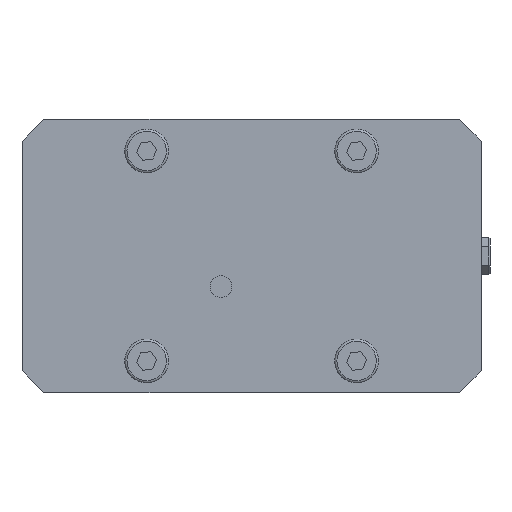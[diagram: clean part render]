
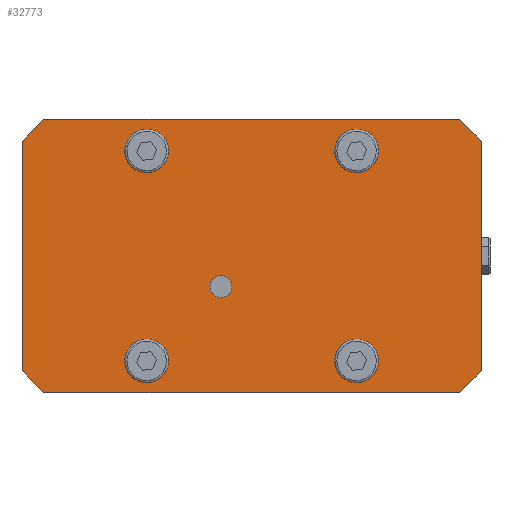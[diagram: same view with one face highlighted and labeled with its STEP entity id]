
A CAD part, front view. The second image highlights one B-rep face of the part: STEP entity #32773.
In plain terms, the highlighted planar face has unit normal (0, -1, 0).
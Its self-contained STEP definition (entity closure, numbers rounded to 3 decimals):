
#156 = CIRCLE ( 'NONE', #12321, 8. ) ;
#353 = LINE ( 'NONE', #7289, #7281 ) ;
#418 = DIRECTION ( 'NONE',  ( 0.707, 0., 0.707 ) ) ;
#1145 = DIRECTION ( 'NONE',  ( 0., 0., -1. ) ) ;
#1346 = CARTESIAN_POINT ( 'NONE',  ( -48., 0., 56. ) ) ;
#1418 = CARTESIAN_POINT ( 'NONE',  ( -105., 0., 52.5 ) ) ;
#1720 = CARTESIAN_POINT ( 'NONE',  ( 105., 0., 52.5 ) ) ;
#1759 = LINE ( 'NONE', #38322, #26171 ) ;
#1910 = EDGE_CURVE ( 'NONE', #18973, #18973, #156, .T. ) ;
#2046 = FACE_OUTER_BOUND ( 'NONE', #2738, .T. ) ;
#2391 = CARTESIAN_POINT ( 'NONE',  ( -48., 0., -48. ) ) ;
#2529 = CARTESIAN_POINT ( 'NONE',  ( 95., 0., -62.5 ) ) ;
#2738 = EDGE_LOOP ( 'NONE', ( #22060, #20806, #18169, #15106, #22006, #14324, #21966, #31632 ) ) ;
#3113 = DIRECTION ( 'NONE',  ( -1., 0., 0. ) ) ;
#4117 = DIRECTION ( 'NONE',  ( 0., 0., -1. ) ) ;
#4212 = EDGE_LOOP ( 'NONE', ( #14850 ) ) ;
#4826 = VECTOR ( 'NONE', #29261, 1000. ) ;
#4965 = CARTESIAN_POINT ( 'NONE',  ( 48., 0., -48. ) ) ;
#5041 = VERTEX_POINT ( 'NONE', #26180 ) ;
#5170 = CARTESIAN_POINT ( 'NONE',  ( -105., 0., -52.5 ) ) ;
#5381 = VERTEX_POINT ( 'NONE', #13121 ) ;
#5510 = DIRECTION ( 'NONE',  ( 0., 1., 0. ) ) ;
#6041 = LINE ( 'NONE', #23677, #32300 ) ;
#6069 = VERTEX_POINT ( 'NONE', #2529 ) ;
#6948 = EDGE_CURVE ( 'NONE', #46186, #9711, #353, .T. ) ;
#7281 = VECTOR ( 'NONE', #47200, 1000. ) ;
#7289 = CARTESIAN_POINT ( 'NONE',  ( -105., 0., -62.5 ) ) ;
#7512 = CARTESIAN_POINT ( 'NONE',  ( 105., 0., 62.5 ) ) ;
#8010 = VECTOR ( 'NONE', #418, 1000. ) ;
#9440 = CARTESIAN_POINT ( 'NONE',  ( -95., 0., 62.5 ) ) ;
#9711 = VERTEX_POINT ( 'NONE', #5170 ) ;
#9940 = LINE ( 'NONE', #42919, #40887 ) ;
#10130 = CIRCLE ( 'NONE', #32262, 8. ) ;
#11029 = ORIENTED_EDGE ( 'NONE', *, *, #37244, .T. ) ;
#11058 = DIRECTION ( 'NONE',  ( 0., 0., -1. ) ) ;
#12100 = PLANE ( 'NONE',  #14350 ) ;
#12303 = CARTESIAN_POINT ( 'NONE',  ( -14., 0., -19. ) ) ;
#12321 = AXIS2_PLACEMENT_3D ( 'NONE', #4965, #38139, #1145 ) ;
#12655 = DIRECTION ( 'NONE',  ( 1., 0., 0. ) ) ;
#13121 = CARTESIAN_POINT ( 'NONE',  ( -95., 0., -62.5 ) ) ;
#13244 = DIRECTION ( 'NONE',  ( -1., 0., 0. ) ) ;
#13260 = DIRECTION ( 'NONE',  ( 0., 0., 1. ) ) ;
#13950 = VERTEX_POINT ( 'NONE', #27832 ) ;
#14246 = CARTESIAN_POINT ( 'NONE',  ( 105., 0., -52.5 ) ) ;
#14324 = ORIENTED_EDGE ( 'NONE', *, *, #40499, .T. ) ;
#14350 = AXIS2_PLACEMENT_3D ( 'NONE', #45556, #30733, #37417 ) ;
#14627 = LINE ( 'NONE', #7512, #4826 ) ;
#14850 = ORIENTED_EDGE ( 'NONE', *, *, #35047, .T. ) ;
#15106 = ORIENTED_EDGE ( 'NONE', *, *, #36912, .T. ) ;
#16152 = EDGE_CURVE ( 'NONE', #6069, #5381, #9940, .T. ) ;
#16338 = FACE_BOUND ( 'NONE', #16495, .T. ) ;
#16436 = EDGE_CURVE ( 'NONE', #30717, #30717, #40913, .T. ) ;
#16495 = EDGE_LOOP ( 'NONE', ( #18242 ) ) ;
#16715 = DIRECTION ( 'NONE',  ( 0.707, 0., -0.707 ) ) ;
#16898 = DIRECTION ( 'NONE',  ( 0., 1., 0. ) ) ;
#17026 = VERTEX_POINT ( 'NONE', #31664 ) ;
#17058 = CARTESIAN_POINT ( 'NONE',  ( -48., 0., 48. ) ) ;
#18169 = ORIENTED_EDGE ( 'NONE', *, *, #6948, .T. ) ;
#18242 = ORIENTED_EDGE ( 'NONE', *, *, #16436, .F. ) ;
#18973 = VERTEX_POINT ( 'NONE', #43687 ) ;
#19266 = CIRCLE ( 'NONE', #46055, 8. ) ;
#20806 = ORIENTED_EDGE ( 'NONE', *, *, #43915, .T. ) ;
#21093 = EDGE_LOOP ( 'NONE', ( #11029 ) ) ;
#21721 = LINE ( 'NONE', #36347, #39045 ) ;
#21966 = ORIENTED_EDGE ( 'NONE', *, *, #23774, .F. ) ;
#22006 = ORIENTED_EDGE ( 'NONE', *, *, #16152, .F. ) ;
#22060 = ORIENTED_EDGE ( 'NONE', *, *, #25286, .T. ) ;
#22244 = EDGE_CURVE ( 'NONE', #25455, #34661, #1759, .T. ) ;
#22893 = AXIS2_PLACEMENT_3D ( 'NONE', #44962, #5510, #12655 ) ;
#23677 = CARTESIAN_POINT ( 'NONE',  ( -95., 0., -62.5 ) ) ;
#23774 = EDGE_CURVE ( 'NONE', #25455, #36549, #21721, .T. ) ;
#24956 = EDGE_CURVE ( 'NONE', #34748, #34748, #10130, .T. ) ;
#25286 = EDGE_CURVE ( 'NONE', #34661, #5041, #14627, .T. ) ;
#25455 = VERTEX_POINT ( 'NONE', #1720 ) ;
#25622 = DIRECTION ( 'NONE',  ( 0., -1., 0. ) ) ;
#26171 = VECTOR ( 'NONE', #30917, 1000. ) ;
#26180 = CARTESIAN_POINT ( 'NONE',  ( -95., 0., 62.5 ) ) ;
#27832 = CARTESIAN_POINT ( 'NONE',  ( 56., 0., 48. ) ) ;
#27857 = ORIENTED_EDGE ( 'NONE', *, *, #24956, .T. ) ;
#29261 = DIRECTION ( 'NONE',  ( -1., 0., 0. ) ) ;
#30279 = FACE_BOUND ( 'NONE', #38272, .T. ) ;
#30717 = VERTEX_POINT ( 'NONE', #12303 ) ;
#30733 = DIRECTION ( 'NONE',  ( 0., 1., 0. ) ) ;
#30816 = CARTESIAN_POINT ( 'NONE',  ( 105., 0., -52.5 ) ) ;
#30917 = DIRECTION ( 'NONE',  ( -0.707, 0., 0.707 ) ) ;
#31632 = ORIENTED_EDGE ( 'NONE', *, *, #22244, .T. ) ;
#31664 = CARTESIAN_POINT ( 'NONE',  ( -56., 0., -48. ) ) ;
#32262 = AXIS2_PLACEMENT_3D ( 'NONE', #17058, #43417, #13260 ) ;
#32300 = VECTOR ( 'NONE', #16715, 1000. ) ;
#32773 = ADVANCED_FACE ( 'NONE', ( #34523, #30279, #45306, #34765, #16338, #2046 ), #12100, .F. ) ;
#33163 = LINE ( 'NONE', #14246, #8010 ) ;
#33405 = VECTOR ( 'NONE', #33656, 1000. ) ;
#33656 = DIRECTION ( 'NONE',  ( -0.707, 0., -0.707 ) ) ;
#34331 = CARTESIAN_POINT ( 'NONE',  ( 95., 0., 62.5 ) ) ;
#34523 = FACE_BOUND ( 'NONE', #4212, .T. ) ;
#34661 = VERTEX_POINT ( 'NONE', #34331 ) ;
#34748 = VERTEX_POINT ( 'NONE', #1346 ) ;
#34765 = FACE_BOUND ( 'NONE', #34921, .T. ) ;
#34921 = EDGE_LOOP ( 'NONE', ( #27857 ) ) ;
#35047 = EDGE_CURVE ( 'NONE', #13950, #13950, #41249, .T. ) ;
#35577 = AXIS2_PLACEMENT_3D ( 'NONE', #36613, #25622, #11058 ) ;
#36347 = CARTESIAN_POINT ( 'NONE',  ( 105., 0., -62.5 ) ) ;
#36549 = VERTEX_POINT ( 'NONE', #30816 ) ;
#36613 = CARTESIAN_POINT ( 'NONE',  ( -14., 0., -14. ) ) ;
#36912 = EDGE_CURVE ( 'NONE', #9711, #5381, #6041, .T. ) ;
#37244 = EDGE_CURVE ( 'NONE', #17026, #17026, #19266, .T. ) ;
#37417 = DIRECTION ( 'NONE',  ( 0., 0., 1. ) ) ;
#38139 = DIRECTION ( 'NONE',  ( 0., 1., 0. ) ) ;
#38272 = EDGE_LOOP ( 'NONE', ( #42316 ) ) ;
#38322 = CARTESIAN_POINT ( 'NONE',  ( 105., 0., 52.5 ) ) ;
#39045 = VECTOR ( 'NONE', #4117, 1000. ) ;
#40499 = EDGE_CURVE ( 'NONE', #6069, #36549, #33163, .T. ) ;
#40887 = VECTOR ( 'NONE', #13244, 1000. ) ;
#40913 = CIRCLE ( 'NONE', #35577, 5. ) ;
#41249 = CIRCLE ( 'NONE', #22893, 8. ) ;
#42316 = ORIENTED_EDGE ( 'NONE', *, *, #1910, .T. ) ;
#42919 = CARTESIAN_POINT ( 'NONE',  ( 105., 0., -62.5 ) ) ;
#43417 = DIRECTION ( 'NONE',  ( 0., 1., 0. ) ) ;
#43687 = CARTESIAN_POINT ( 'NONE',  ( 48., 0., -56. ) ) ;
#43915 = EDGE_CURVE ( 'NONE', #5041, #46186, #44208, .T. ) ;
#44208 = LINE ( 'NONE', #9440, #33405 ) ;
#44962 = CARTESIAN_POINT ( 'NONE',  ( 48., 0., 48. ) ) ;
#45306 = FACE_BOUND ( 'NONE', #21093, .T. ) ;
#45556 = CARTESIAN_POINT ( 'NONE',  ( 105., 0., -62.5 ) ) ;
#46055 = AXIS2_PLACEMENT_3D ( 'NONE', #2391, #16898, #3113 ) ;
#46186 = VERTEX_POINT ( 'NONE', #1418 ) ;
#47200 = DIRECTION ( 'NONE',  ( 0., 0., -1. ) ) ;
